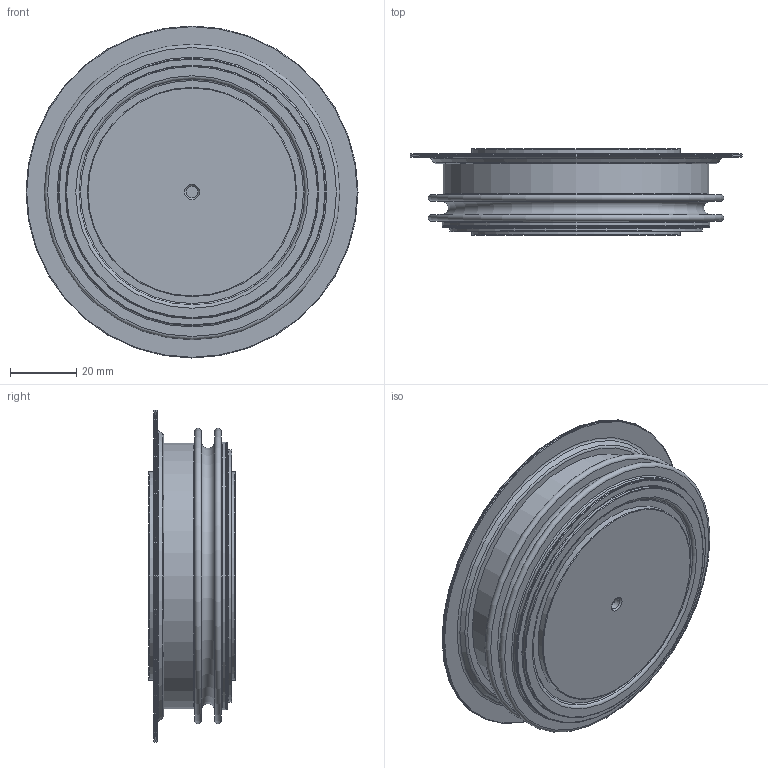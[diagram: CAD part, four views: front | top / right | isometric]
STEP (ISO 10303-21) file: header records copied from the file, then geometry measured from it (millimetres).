
FILE_DESCRIPTION(/* description */ (''),/* implementation_level */ '2;1');
FILE_NAME(/* name */ '\\10.38.22.188\03_技術部共有\S2_商品技術課\S2102_ハイパワー製品群\01_IXYS製品測定データ\005 図面\★ 3Dモデル\ダイオード\I3697PJA160\I3697PJA160.stp',/* time_stamp */ '2024-03-06T10:46:54+09:00',/* author */ ('00210404296'),/* organization */ (''),/* preprocessor_version */ 'ST-DEVELOPER v17',/* originating_system */ 'Autodesk Inventor 2019',/* authorisation */ '');
FILE_SCHEMA (('AUTOMOTIVE_DESIGN { 1 0 10303 214 3 1 1 }'));
Length unit declared in the file: millimetre
Products named in the file (1): I3697PJA160_モデル_完成版 垣
Bounding box: 100 x 26 x 100 mm (x, y, z)
Volume: 131743 mm3; surface area: 27119.2 mm2
Topology: 1 solids, 1 shells, 50 faces, 146 edges, 111 vertices
Faces by surface type: torus 22, plane 15, cylinder 10, cone 3
Full cylindrical faces by diameter (mm): 3.55 x2, 63 x2, 76 x1, 80 x1, 80.5 x2, 100 x2
Entity records: 1868 total; most frequent: DIRECTION 381, CARTESIAN_POINT 308, ORIENTED_EDGE 292, AXIS2_PLACEMENT_3D 184, EDGE_CURVE 146, CIRCLE 133, VERTEX_POINT 111, EDGE_LOOP 63
